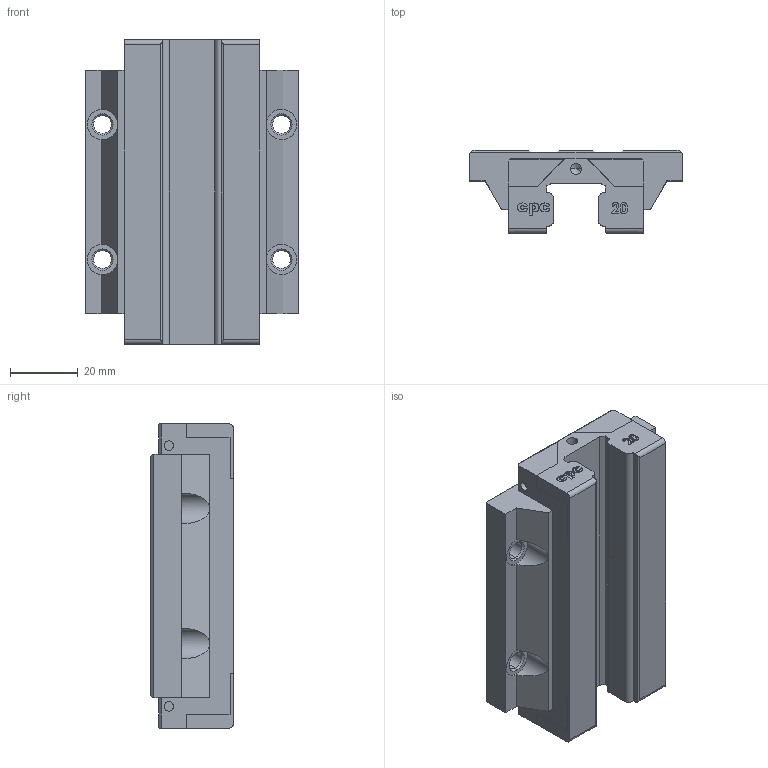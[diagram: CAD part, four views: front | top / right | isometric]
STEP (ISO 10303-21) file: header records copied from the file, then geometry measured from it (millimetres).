
FILE_DESCRIPTION (( 'STEP AP203' ), '1' );
FILE_NAME ('HR20_FL.STEP', '2009-08-03T10:40:32', ( 'cpc' ), ( '' ), 'SwSTEP 2.0', 'SolidWorks 2007', '' );
FILE_SCHEMA (( 'CONFIG_CONTROL_DESIGN' ));
Length unit declared in the file: millimetre
Products named in the file (1): HR20_FL
Bounding box: 63 x 24.5 x 90.2 mm (x, y, z)
Volume: 85054.2 mm3; surface area: 20218 mm2
Topology: 1 solids, 1 shells, 280 faces, 756 edges, 494 vertices
Faces by surface type: plane 132, bspline 90, cylinder 38, cone 20
Entity records: 13571 total; most frequent: CARTESIAN_POINT 7095, ORIENTED_EDGE 1504, DIRECTION 1010, EDGE_CURVE 752, VERTEX_POINT 494, VECTOR 460, LINE 460, EDGE_LOOP 308
